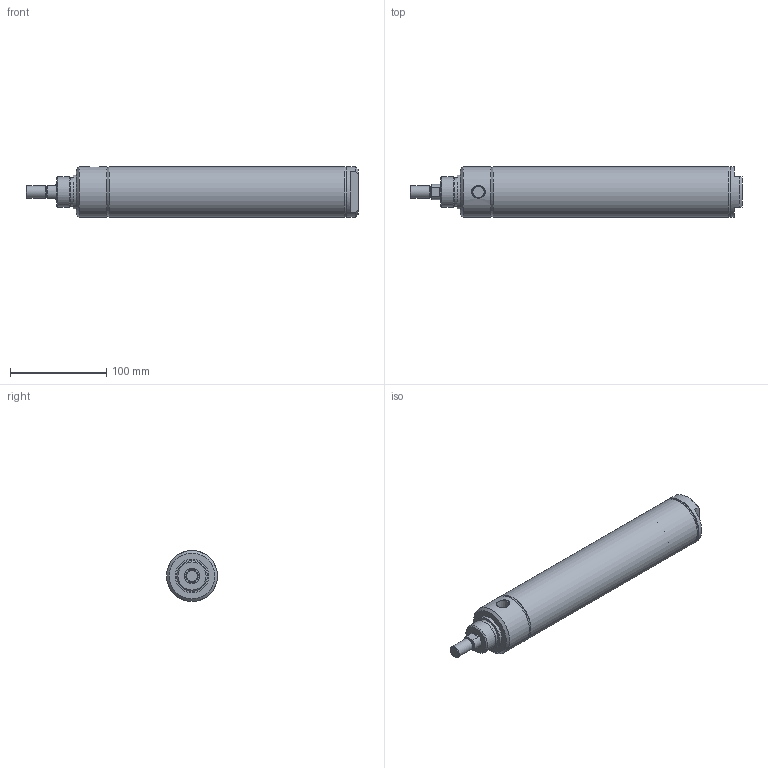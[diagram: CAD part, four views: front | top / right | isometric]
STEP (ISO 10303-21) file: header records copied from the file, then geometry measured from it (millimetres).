
FILE_DESCRIPTION( ( 'STEP AP214' ), '1' );
FILE_NAME( 'p:/temp/worker_519/temp/exporttempdir_4584_389_XOFDk/format_0/2000D01-08A-03.stp', '2020-05-07T19:05:27', ( 'License CC BY-ND 4.0' ), ( 'CADENAS' ), ' ', 'PARTsolutions', ' ' );
FILE_SCHEMA( ( 'AUTOMOTIVE_DESIGN { 1 0 10303 214 1 1 1 1 }' ) );
Length unit declared in the file: inch
Products named in the file (3): 2000D01-08A-03; _2000D01-08A-0300A00A0b; _2000D01-08A-0300A00A0r
Assembly tree (2 placements, depth 2):
  2000D01-08A-03
    _2000D01-08A-0300A00A0b
    _2000D01-08A-0300A00A0r
Bounding box: 344.5 x 52.78 x 52.78 mm (x, y, z)
Volume: 273967.1 mm3; surface area: 125867.7 mm2
Topology: 2 solids, 2 shells, 48 faces, 92 edges, 58 vertices
Faces by surface type: plane 22, cone 13, cylinder 13
Full cylindrical faces by diameter (mm): 11.189 x1, 12.7 x1, 15.875 x3, 29.23 x1, 31.75 x1, 34.925 x1, 50.8 x2, 52.578 x1, 52.781 x2
Entity records: 1605 total; most frequent: CARTESIAN_POINT 271, DIRECTION 206, ORIENTED_EDGE 130, AXIS2_PLACEMENT_3D 95, EDGE_LOOP 84, EDGE_CURVE 65, FACE_OUTER_BOUND 61, VERTEX_POINT 55
